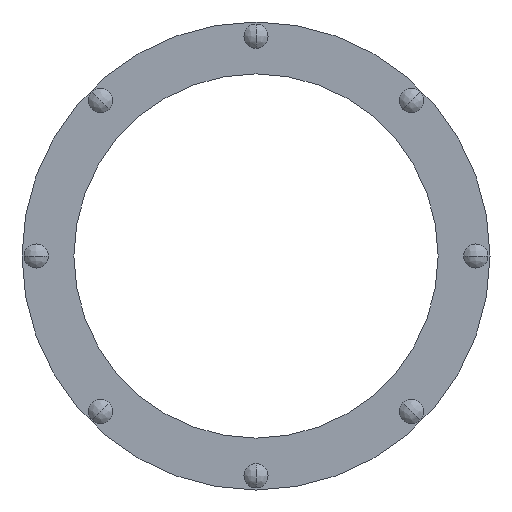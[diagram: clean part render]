
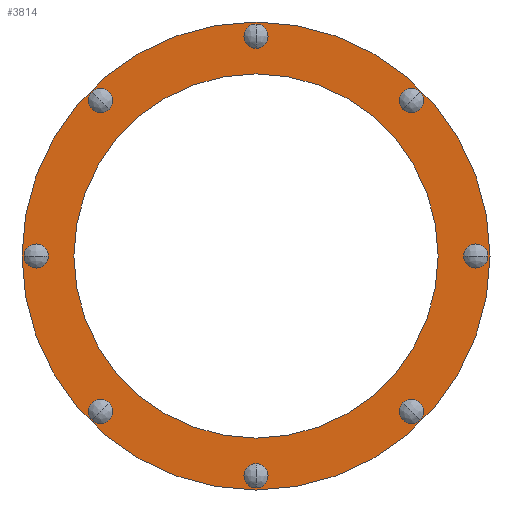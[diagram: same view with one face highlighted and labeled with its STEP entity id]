
A CAD part, front view. The second image highlights one B-rep face of the part: STEP entity #3814.
In plain terms, the highlighted planar face has unit normal (0, -1, 0).
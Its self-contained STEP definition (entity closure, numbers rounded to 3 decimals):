
#1329=CARTESIAN_POINT('',(0.,-151.,0.));
#1330=DIRECTION('',(0.,-1.,0.));
#1331=DIRECTION('',(-1.,0.,0.));
#1332=AXIS2_PLACEMENT_3D('',#1329,#1330,#1331);
#1338=CARTESIAN_POINT('',(0.,-151.,0.));
#1339=DIRECTION('',(0.,1.,0.));
#1340=DIRECTION('',(-1.,0.,0.));
#1341=AXIS2_PLACEMENT_3D('',#1338,#1339,#1340);
#1347=CARTESIAN_POINT('',(0.,-151.,0.));
#1348=DIRECTION('',(0.,-1.,0.));
#1349=DIRECTION('',(-1.,0.,0.));
#1350=AXIS2_PLACEMENT_3D('',#1347,#1348,#1349);
#1352=CARTESIAN_POINT('',(0.,-151.,0.));
#1353=DIRECTION('',(0.,1.,0.));
#1354=DIRECTION('',(-1.,0.,0.));
#1355=AXIS2_PLACEMENT_3D('',#1352,#1353,#1354);
#1357=CARTESIAN_POINT('',(-233.,-151.,0.));
#1358=DIRECTION('',(0.,1.,0.));
#1359=DIRECTION('',(-1.,0.,0.));
#1360=AXIS2_PLACEMENT_3D('',#1357,#1358,#1359);
#1362=CARTESIAN_POINT('',(-233.,-151.,0.));
#1363=DIRECTION('',(0.,1.,0.));
#1364=DIRECTION('',(1.,0.,0.));
#1365=AXIS2_PLACEMENT_3D('',#1362,#1363,#1364);
#1367=CARTESIAN_POINT('',(-164.756,-151.,-164.756));
#1368=DIRECTION('',(0.,1.,0.));
#1369=DIRECTION('',(-0.707,0.,-0.707));
#1370=AXIS2_PLACEMENT_3D('',#1367,#1368,#1369);
#1372=CARTESIAN_POINT('',(-164.756,-151.,-164.756));
#1373=DIRECTION('',(0.,1.,0.));
#1374=DIRECTION('',(0.707,0.,0.707));
#1375=AXIS2_PLACEMENT_3D('',#1372,#1373,#1374);
#1377=CARTESIAN_POINT('',(0.,-151.,-233.));
#1378=DIRECTION('',(0.,1.,0.));
#1379=DIRECTION('',(0.,0.,-1.));
#1380=AXIS2_PLACEMENT_3D('',#1377,#1378,#1379);
#1382=CARTESIAN_POINT('',(0.,-151.,-233.));
#1383=DIRECTION('',(0.,1.,0.));
#1384=DIRECTION('',(0.,0.,1.));
#1385=AXIS2_PLACEMENT_3D('',#1382,#1383,#1384);
#1387=CARTESIAN_POINT('',(164.756,-151.,-164.756));
#1388=DIRECTION('',(0.,1.,0.));
#1389=DIRECTION('',(0.707,0.,-0.707));
#1390=AXIS2_PLACEMENT_3D('',#1387,#1388,#1389);
#1392=CARTESIAN_POINT('',(164.756,-151.,-164.756));
#1393=DIRECTION('',(0.,1.,0.));
#1394=DIRECTION('',(-0.707,0.,0.707));
#1395=AXIS2_PLACEMENT_3D('',#1392,#1393,#1394);
#1397=CARTESIAN_POINT('',(233.,-151.,0.));
#1398=DIRECTION('',(0.,1.,0.));
#1399=DIRECTION('',(1.,0.,0.));
#1400=AXIS2_PLACEMENT_3D('',#1397,#1398,#1399);
#1402=CARTESIAN_POINT('',(233.,-151.,0.));
#1403=DIRECTION('',(0.,1.,0.));
#1404=DIRECTION('',(-1.,0.,0.));
#1405=AXIS2_PLACEMENT_3D('',#1402,#1403,#1404);
#1407=CARTESIAN_POINT('',(164.756,-151.,164.756));
#1408=DIRECTION('',(0.,1.,0.));
#1409=DIRECTION('',(0.707,0.,0.707));
#1410=AXIS2_PLACEMENT_3D('',#1407,#1408,#1409);
#1412=CARTESIAN_POINT('',(164.756,-151.,164.756));
#1413=DIRECTION('',(0.,1.,0.));
#1414=DIRECTION('',(-0.707,0.,-0.707));
#1415=AXIS2_PLACEMENT_3D('',#1412,#1413,#1414);
#1417=CARTESIAN_POINT('',(0.,-151.,233.));
#1418=DIRECTION('',(0.,1.,0.));
#1419=DIRECTION('',(0.,0.,1.));
#1420=AXIS2_PLACEMENT_3D('',#1417,#1418,#1419);
#1422=CARTESIAN_POINT('',(0.,-151.,233.));
#1423=DIRECTION('',(0.,1.,0.));
#1424=DIRECTION('',(0.,0.,-1.));
#1425=AXIS2_PLACEMENT_3D('',#1422,#1423,#1424);
#1427=CARTESIAN_POINT('',(-164.756,-151.,164.756));
#1428=DIRECTION('',(0.,1.,0.));
#1429=DIRECTION('',(-0.707,0.,0.707));
#1430=AXIS2_PLACEMENT_3D('',#1427,#1428,#1429);
#1432=CARTESIAN_POINT('',(-164.756,-151.,164.756));
#1433=DIRECTION('',(0.,1.,0.));
#1434=DIRECTION('',(0.707,0.,-0.707));
#1435=AXIS2_PLACEMENT_3D('',#1432,#1433,#1434);
#2627=CARTESIAN_POINT('',(-248.,-151.,0.));
#2629=VERTEX_POINT('',#2627);
#2630=CARTESIAN_POINT('',(-193.,-151.,0.));
#2632=VERTEX_POINT('',#2630);
#2645=CARTESIAN_POINT('',(248.,-151.,0.));
#2647=VERTEX_POINT('',#2645);
#2648=CARTESIAN_POINT('',(193.,-151.,0.));
#2650=VERTEX_POINT('',#2648);
#2718=CARTESIAN_POINT('',(-245.75,-151.,0.));
#2719=VERTEX_POINT('',#2718);
#2720=CARTESIAN_POINT('',(-220.25,-151.,0.));
#2721=VERTEX_POINT('',#2720);
#2760=CARTESIAN_POINT('',(-173.771,-151.,-173.771));
#2761=VERTEX_POINT('',#2760);
#2762=CARTESIAN_POINT('',(-155.74,-151.,-155.74));
#2763=VERTEX_POINT('',#2762);
#2802=CARTESIAN_POINT('',(0.,-151.,-245.75));
#2803=VERTEX_POINT('',#2802);
#2804=CARTESIAN_POINT('',(0.,-151.,-220.25));
#2805=VERTEX_POINT('',#2804);
#2844=CARTESIAN_POINT('',(173.771,-151.,-173.771));
#2845=VERTEX_POINT('',#2844);
#2846=CARTESIAN_POINT('',(155.74,-151.,-155.74));
#2847=VERTEX_POINT('',#2846);
#2886=CARTESIAN_POINT('',(245.75,-151.,0.));
#2887=VERTEX_POINT('',#2886);
#2888=CARTESIAN_POINT('',(220.25,-151.,0.));
#2889=VERTEX_POINT('',#2888);
#2928=CARTESIAN_POINT('',(173.771,-151.,173.771));
#2929=VERTEX_POINT('',#2928);
#2930=CARTESIAN_POINT('',(155.74,-151.,155.74));
#2931=VERTEX_POINT('',#2930);
#2990=CARTESIAN_POINT('',(0.,-151.,245.75));
#2991=VERTEX_POINT('',#2990);
#2992=CARTESIAN_POINT('',(0.,-151.,220.25));
#2993=VERTEX_POINT('',#2992);
#3032=CARTESIAN_POINT('',(-173.771,-151.,173.771));
#3033=VERTEX_POINT('',#3032);
#3034=CARTESIAN_POINT('',(-155.74,-151.,155.74));
#3035=VERTEX_POINT('',#3034);
#3751=CARTESIAN_POINT('',(0.,-151.,0.));
#3752=DIRECTION('',(0.,-1.,0.));
#3753=DIRECTION('',(-1.,0.,0.));
#3754=AXIS2_PLACEMENT_3D('',#3751,#3752,#3753);
#3755=PLANE('',#3754);
#3757=ORIENTED_EDGE('',*,*,#3756,.F.);
#3759=ORIENTED_EDGE('',*,*,#3758,.T.);
#3760=EDGE_LOOP('',(#3757,#3759));
#3761=FACE_OUTER_BOUND('',#3760,.F.);
#3762=ORIENTED_EDGE('',*,*,#3744,.F.);
#3763=ORIENTED_EDGE('',*,*,#3733,.T.);
#3764=EDGE_LOOP('',(#3762,#3763));
#3765=FACE_BOUND('',#3764,.F.);
#3767=ORIENTED_EDGE('',*,*,#3766,.F.);
#3769=ORIENTED_EDGE('',*,*,#3768,.F.);
#3770=EDGE_LOOP('',(#3767,#3769));
#3771=FACE_BOUND('',#3770,.F.);
#3773=ORIENTED_EDGE('',*,*,#3772,.F.);
#3775=ORIENTED_EDGE('',*,*,#3774,.F.);
#3776=EDGE_LOOP('',(#3773,#3775));
#3777=FACE_BOUND('',#3776,.F.);
#3779=ORIENTED_EDGE('',*,*,#3778,.F.);
#3781=ORIENTED_EDGE('',*,*,#3780,.F.);
#3782=EDGE_LOOP('',(#3779,#3781));
#3783=FACE_BOUND('',#3782,.F.);
#3785=ORIENTED_EDGE('',*,*,#3784,.F.);
#3787=ORIENTED_EDGE('',*,*,#3786,.F.);
#3788=EDGE_LOOP('',(#3785,#3787));
#3789=FACE_BOUND('',#3788,.F.);
#3791=ORIENTED_EDGE('',*,*,#3790,.F.);
#3793=ORIENTED_EDGE('',*,*,#3792,.F.);
#3794=EDGE_LOOP('',(#3791,#3793));
#3795=FACE_BOUND('',#3794,.F.);
#3797=ORIENTED_EDGE('',*,*,#3796,.F.);
#3799=ORIENTED_EDGE('',*,*,#3798,.F.);
#3800=EDGE_LOOP('',(#3797,#3799));
#3801=FACE_BOUND('',#3800,.F.);
#3803=ORIENTED_EDGE('',*,*,#3802,.F.);
#3805=ORIENTED_EDGE('',*,*,#3804,.F.);
#3806=EDGE_LOOP('',(#3803,#3805));
#3807=FACE_BOUND('',#3806,.F.);
#3809=ORIENTED_EDGE('',*,*,#3808,.F.);
#3811=ORIENTED_EDGE('',*,*,#3810,.F.);
#3812=EDGE_LOOP('',(#3809,#3811));
#3813=FACE_BOUND('',#3812,.F.);
#3814=ADVANCED_FACE('',(#3761,#3765,#3771,#3777,#3783,#3789,#3795,#3801,#3807,
#3813),#3755,.T.);
#1333=CIRCLE('',#1332,193.);
#1342=CIRCLE('',#1341,193.);
#1351=CIRCLE('',#1350,248.);
#1356=CIRCLE('',#1355,248.);
#1361=CIRCLE('',#1360,12.75);
#1366=CIRCLE('',#1365,12.75);
#1371=CIRCLE('',#1370,12.75);
#1376=CIRCLE('',#1375,12.75);
#1381=CIRCLE('',#1380,12.75);
#1386=CIRCLE('',#1385,12.75);
#1391=CIRCLE('',#1390,12.75);
#1396=CIRCLE('',#1395,12.75);
#1401=CIRCLE('',#1400,12.75);
#1406=CIRCLE('',#1405,12.75);
#1411=CIRCLE('',#1410,12.75);
#1416=CIRCLE('',#1415,12.75);
#1421=CIRCLE('',#1420,12.75);
#1426=CIRCLE('',#1425,12.75);
#1431=CIRCLE('',#1430,12.75);
#1436=CIRCLE('',#1435,12.75);
#3733=EDGE_CURVE('',#2632,#2650,#1333,.T.);
#3744=EDGE_CURVE('',#2632,#2650,#1342,.T.);
#3756=EDGE_CURVE('',#2629,#2647,#1351,.T.);
#3758=EDGE_CURVE('',#2629,#2647,#1356,.T.);
#3766=EDGE_CURVE('',#2719,#2721,#1361,.T.);
#3768=EDGE_CURVE('',#2721,#2719,#1366,.T.);
#3772=EDGE_CURVE('',#2761,#2763,#1371,.T.);
#3774=EDGE_CURVE('',#2763,#2761,#1376,.T.);
#3778=EDGE_CURVE('',#2803,#2805,#1381,.T.);
#3780=EDGE_CURVE('',#2805,#2803,#1386,.T.);
#3784=EDGE_CURVE('',#2845,#2847,#1391,.T.);
#3786=EDGE_CURVE('',#2847,#2845,#1396,.T.);
#3790=EDGE_CURVE('',#2887,#2889,#1401,.T.);
#3792=EDGE_CURVE('',#2889,#2887,#1406,.T.);
#3796=EDGE_CURVE('',#2929,#2931,#1411,.T.);
#3798=EDGE_CURVE('',#2931,#2929,#1416,.T.);
#3802=EDGE_CURVE('',#2991,#2993,#1421,.T.);
#3804=EDGE_CURVE('',#2993,#2991,#1426,.T.);
#3808=EDGE_CURVE('',#3033,#3035,#1431,.T.);
#3810=EDGE_CURVE('',#3035,#3033,#1436,.T.);
